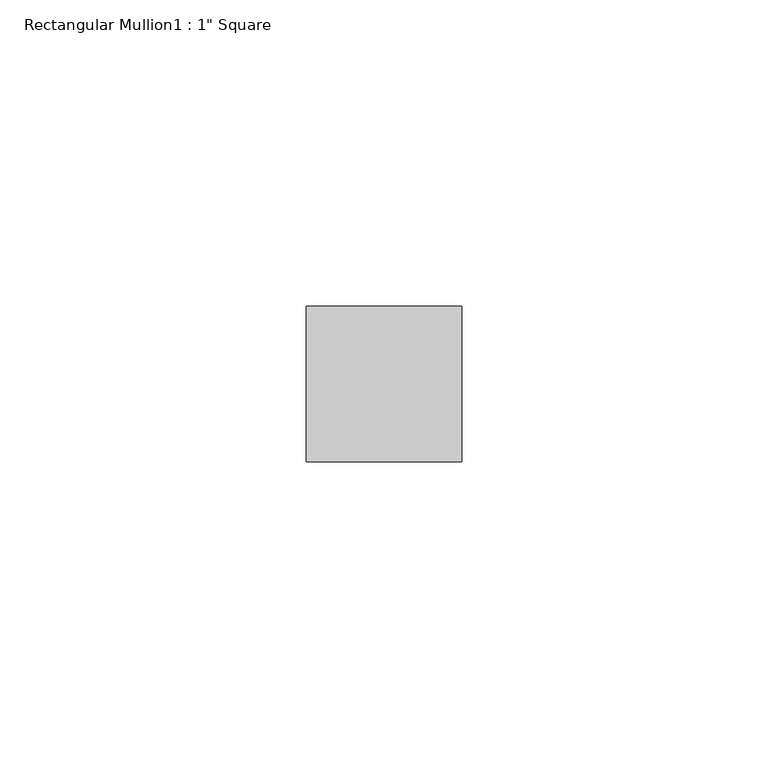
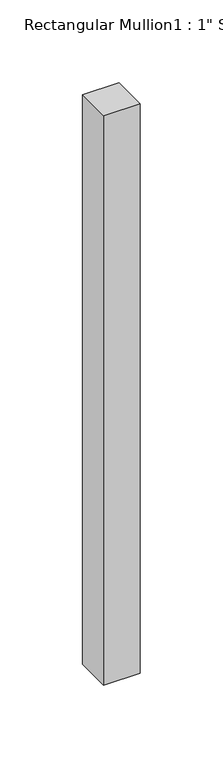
"""IFC4 building model written with IfcOpenShell, lengths in millimetres: member geometry."""

from ifc_helpers import new_model, si_unit, frame, origin, place, context, project, spatial, polyline, outline, extrude, source, transform, mapped, element, save


def member_efb85692(model_context):
    return source(origin(), model_context, "Body", "SweptSolid", [
        extrude(outline(polyline([(12.7, -19.05), (12.7, -44.45), (-12.7, -44.45), (-12.7, -19.05), (12.7, -19.05)])), frame((0.0, 0.0, -419.1), z_axis=(0.0, 0.0, 1.0), x_axis=(1.0, 0.0, 0.0)), (0.0, 0.0, 1.0), 419.1),
    ])


if __name__ == "__main__":
    model = new_model("IFC4")
    model_context = context("Model", 3, world=origin())
    ifc_project = project(units=[si_unit("LENGTHUNIT", "METRE", prefix="MILLI")], contexts=[model_context])
    site = spatial("IfcSite", under=ifc_project)
    building = spatial("IfcBuilding", under=site)
    placement = place(None, origin())
    member_shape = member_efb85692(model_context)
    element("IfcMember", 1, ObjectType="Rectangular Mullion1 : 1\" Square", at=placement, inside=building, context=model_context, shape_type="MappedRepresentation", body=[
        mapped(member_shape, transform((0.0, 0.0, 0.0), x_axis=(1.0, 0.0, 0.0), y_axis=(0.0, 1.0, 0.0), z_axis=(0.0, 0.0, 1.0))),
    ])
    save(model, "model.ifc")
